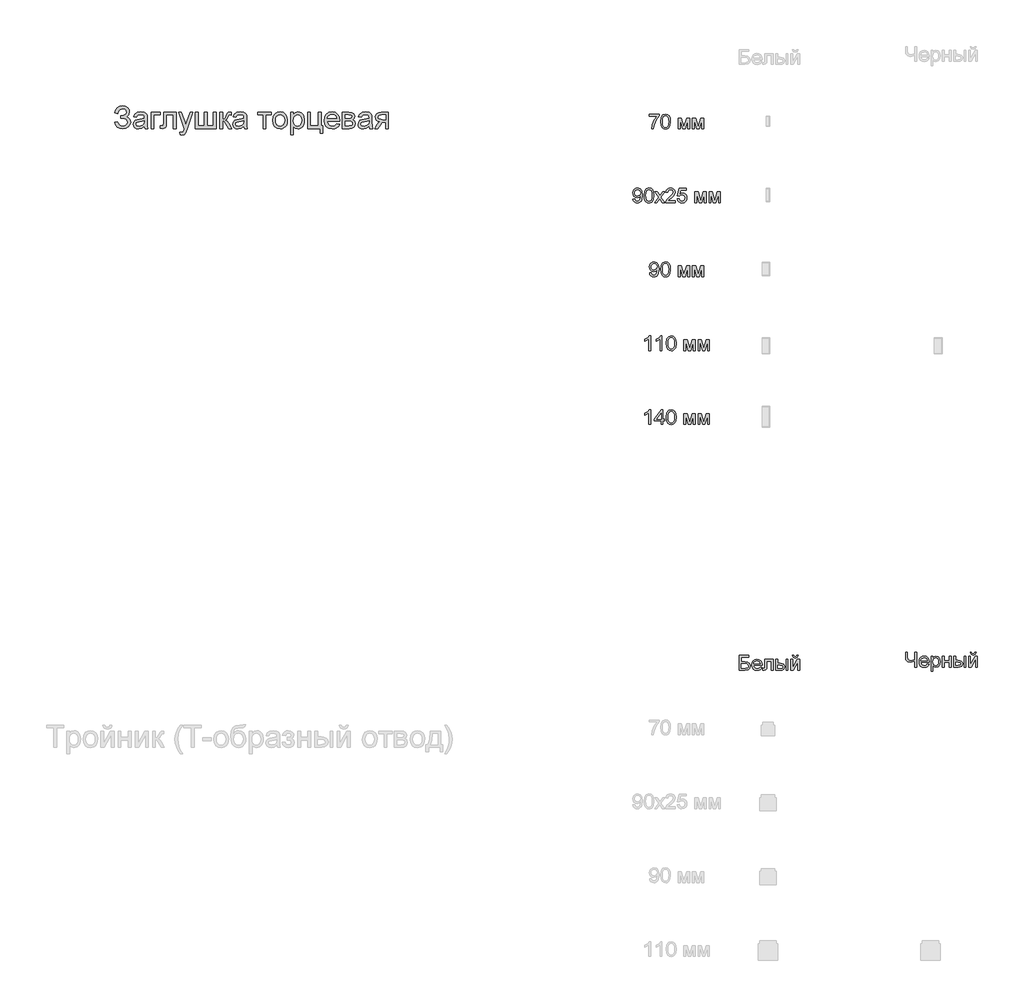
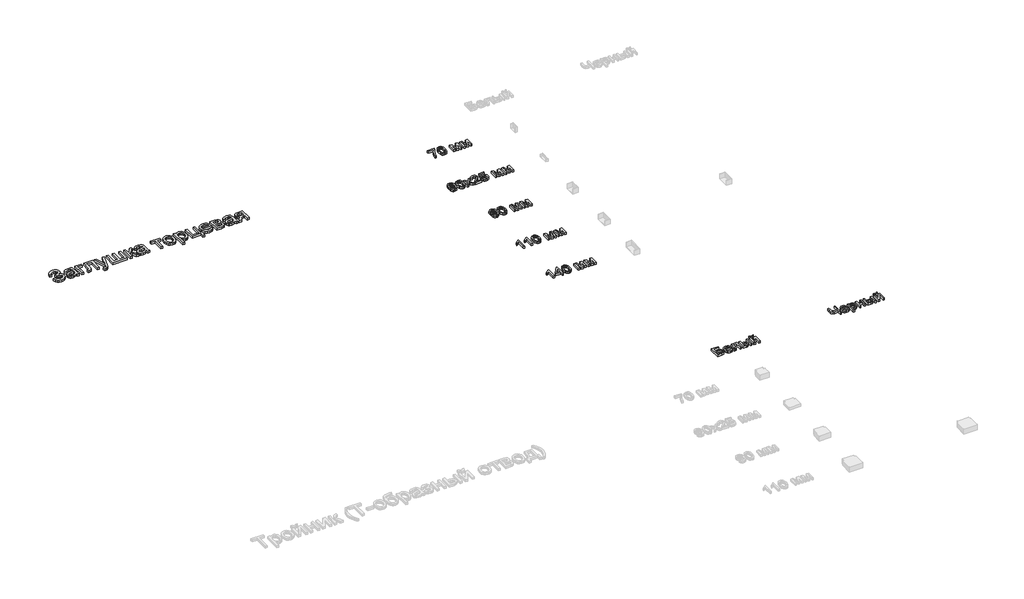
# One storey, part 9 of 48: 8 proxies.
"""IFC4 building model written with IfcOpenShell, lengths in millimetres."""

from ifc_helpers import new_model, si_unit, origin, origin_with_axes, place, context, project, spatial, polyline, outline, extrude, element, save

model = new_model("IFC4")

# Units and contexts
model_context = context("Model", 3, world=origin())
ifc_project = project(units=[si_unit("LENGTHUNIT", "METRE", prefix="MILLI")], contexts=[model_context])

# Site, building, storey
site = spatial("IfcSite", under=ifc_project)
building = spatial("IfcBuilding", under=site)
storey = spatial("IfcBuildingStorey", under=building, Name="Этаж 01", Elevation=0.0)

# Proxies
placement = place(None, origin())
element("IfcBuildingElementProxy", 1, Name="150 мм Arial", ObjectType="150 мм Arial", at=placement, inside=storey, context=model_context, shape_type="SweptSolid", body=[
    extrude(outline(polyline([(8583.0171402, -17521.7513359), (8601.8526983, -17517.0424464), (8613.4225871, -17537.441503), (8624.3532809, -17545.098047), (8638.3465923, -17547.6502284), (8652.5238446, -17545.7326435), (8663.3441738, -17539.9798888), (8670.2005745, -17531.5140043), (8672.4860414, -17521.4570303), (8669.9890424, -17510.9218097), (8662.4980452, -17502.787019), (8650.7028288, -17497.5860873), (8635.2931717, -17495.8524434), (8625.397146, -17495.8524434), (8625.397146, -17477.0168853), (8646.7159076, -17475.490175), (8659.7573244, -17467.6910767), (8665.4227071, -17453.4356494), (8663.5373119, -17444.5650948), (8657.8811262, -17436.9361419), (8649.0059731, -17431.6800279), (8637.4636755, -17429.9279899), (8618.2418412, -17435.3174611), (8607.2421696, -17449.6096766), (8604.2071431, -17462.8902167), (8585.3715849, -17458.1813271), (8591.2232079, -17437.5799354), (8601.8251072, -17422.8646556), (8617.1772827, -17414.0354877), (8637.2797345, -17411.0924317), (8656.6717141, -17414.1504508), (8671.5847305, -17423.3245081), (8681.0898816, -17436.5912525), (8684.2582653, -17451.9273332), (8679.3286465, -17470.5697533), (8664.5397903, -17484.4848898), (8675.0152301, -17489.3087424), (8683.6328659, -17497.4527301), (8689.3994161, -17508.217877), (8691.3215996, -17520.9052073), (8687.6335826, -17538.7428855), (8676.5695316, -17553.4075816), (8659.4170335, -17563.2162353), (8637.4636755, -17566.4857865), (8618.3614029, -17563.6898833), (8602.9195561, -17555.3021739), (8591.1381352, -17541.322658), (8583.0171402, -17521.7513359)])), origin_with_axes(), (0.0, 0.0, 1.0), 20.0),
    extrude(outline(polyline([(8785.4993903, -17550.0046731), (8767.2340493, -17562.7701784), (8747.0557218, -17566.4857865), (8731.314971, -17564.2509034), (8719.7036955, -17557.546254), (8712.5437922, -17547.3651198), (8710.1571577, -17534.7007821), (8713.7624013, -17519.8015613), (8723.2353626, -17508.9858307), (8736.4239322, -17502.8054131), (8752.7211046, -17499.9727218), (8785.3890257, -17493.4979987), (8785.4993903, -17489.3041439), (8784.2026063, -17480.8980403), (8780.3122542, -17475.3982045), (8771.611845, -17471.3147144), (8759.4901333, -17469.953551), (8740.4338459, -17473.5771886), (8731.3471606, -17486.4346644), (8712.5116025, -17484.0802196), (8720.6601887, -17465.6861198), (8737.0677257, -17454.9071774), (8761.9181544, -17451.1179928), (8784.7452322, -17454.465719), (8797.6394962, -17462.8718226), (8803.4152435, -17475.6557219), (8804.3349485, -17492.1368353), (8804.3349485, -17515.5709184), (8805.2914417, -17548.2940218), (8809.043838, -17564.1313417), (8790.2082799, -17564.1313417), (8785.4993903, -17550.0046731)]), holes=[polyline([(8785.4993903, -17512.3335568), (8755.1123375, -17518.1093041), (8738.9071356, -17521.1627247), (8731.5678898, -17526.1291316), (8728.9927159, -17533.3764069), (8734.6029163, -17543.5667382), (8751.0656356, -17547.6502284), (8770.1219229, -17543.1436739), (8782.4091816, -17532.2359728), (8785.3890257, -17517.6678457), (8785.4993903, -17512.3335568)])]), origin_with_axes(), (0.0, 0.0, 1.0), 20.0),
    extrude(outline(polyline([(8830.2338409, -17453.4724376), (8891.4494049, -17453.4724376), (8891.4494049, -17472.3079957), (8849.0693991, -17472.3079957), (8849.0693991, -17564.1313417), (8830.2338409, -17564.1313417), (8830.2338409, -17453.4724376)])), origin_with_axes(), (0.0, 0.0, 1.0), 20.0),
    extrude(outline(polyline([(8914.9938526, -17453.4724376), (8999.7538643, -17453.4724376), (8999.7538643, -17564.0209771), (8980.9183062, -17564.0209771), (8980.9183062, -17472.3079957), (8933.8294108, -17472.3079957), (8933.8294108, -17525.0990621), (8932.5602179, -17549.4528501), (8925.5888541, -17559.7351519), (8909.1077407, -17564.1313417), (8893.8038497, -17563.1748486), (8893.8038497, -17545.2957836), (8902.2283474, -17545.2957836), (8910.7448156, -17544.1369553), (8914.147724, -17540.4581354), (8914.9938526, -17524.0322043), (8914.9938526, -17453.4724376)])), origin_with_axes(), (0.0, 0.0, 1.0), 20.0),
    extrude(outline(polyline([(9028.0072015, -17606.5113476), (9025.6527568, -17588.3747652), (9035.2176887, -17590.0302342), (9044.1572211, -17587.9517009), (9049.6386629, -17582.1575595), (9054.7890108, -17568.2884083), (9056.2605388, -17563.7266715), (9016.2349777, -17453.4724376), (9036.1006054, -17453.4724376), (9057.3273966, -17514.9087308), (9064.7218247, -17539.4832481), (9072.1162528, -17517.7782103), (9093.9316551, -17453.4724376), (9113.65013, -17453.4724376), (9075.1328851, -17566.7800921), (9065.1264949, -17591.3546094), (9054.2003996, -17604.6351494), (9039.521908, -17608.8657924), (9028.0072015, -17606.5113476)])), origin_with_axes(), (0.0, 0.0, 1.0), 20.0),
    extrude(outline(polyline([(9129.2483266, -17453.4724376), (9148.0838848, -17453.4724376), (9148.0838848, -17545.2957836), (9190.4638906, -17545.2957836), (9190.4638906, -17453.4724376), (9209.2994488, -17453.4724376), (9209.2994488, -17545.2957836), (9251.6794546, -17545.2957836), (9251.6794546, -17453.4724376), (9270.5150128, -17453.4724376), (9270.5150128, -17564.1313417), (9129.2483266, -17564.1313417), (9129.2483266, -17453.4724376)])), origin_with_axes(), (0.0, 0.0, 1.0), 20.0),
    extrude(outline(polyline([(9296.4139052, -17453.4724376), (9315.2494634, -17453.4724376), (9315.2494634, -17500.561333), (9327.8678158, -17497.1768186), (9338.2052999, -17477.4583437), (9346.7953445, -17460.4438014), (9354.3737136, -17454.9071774), (9368.1508943, -17453.4724376), (9371.7561378, -17453.4724376), (9371.7561378, -17472.4183603), (9366.6793663, -17472.3079957), (9357.4823164, -17474.2945585), (9351.0075933, -17486.6921818), (9343.4108301, -17500.1014805), (9332.7606464, -17506.6681741), (9344.6432348, -17513.9982228), (9356.305094, -17529.4400696), (9376.4650274, -17564.1313417), (9355.0542953, -17564.1313417), (9335.2990321, -17530.1758336), (9325.3662182, -17515.8100417), (9315.2494634, -17512.3335568), (9315.2494634, -17564.1313417), (9296.4139052, -17564.1313417), (9296.4139052, -17453.4724376)])), origin_with_axes(), (0.0, 0.0, 1.0), 20.0),
    extrude(outline(polyline([(9458.8705943, -17550.0046731), (9440.6052532, -17562.7701784), (9420.4269258, -17566.4857865), (9404.6861749, -17564.2509034), (9393.0748995, -17557.546254), (9385.9149961, -17547.3651198), (9383.5283617, -17534.7007821), (9387.1336052, -17519.8015613), (9396.6065666, -17508.9858307), (9409.7951361, -17502.8054131), (9426.0923085, -17499.9727218), (9458.7602297, -17493.4979987), (9458.8705943, -17489.3041439), (9457.5738103, -17480.8980403), (9453.6834582, -17475.3982045), (9444.983049, -17471.3147144), (9432.8613372, -17469.953551), (9413.8050499, -17473.5771886), (9404.7183646, -17486.4346644), (9385.8828065, -17484.0802196), (9394.0313926, -17465.6861198), (9410.4389296, -17454.9071774), (9435.2893584, -17451.1179928), (9458.1164362, -17454.465719), (9471.0107001, -17462.8718226), (9476.7864475, -17475.6557219), (9477.7061525, -17492.1368353), (9477.7061525, -17515.5709184), (9478.6626456, -17548.2940218), (9482.415042, -17564.1313417), (9463.5794838, -17564.1313417), (9458.8705943, -17550.0046731)]), holes=[polyline([(9458.8705943, -17512.3335568), (9428.4835415, -17518.1093041), (9412.2783396, -17521.1627247), (9404.9390938, -17526.1291316), (9402.3639198, -17533.3764069), (9407.9741203, -17543.5667382), (9424.4368395, -17547.6502284), (9443.4931269, -17543.1436739), (9455.7803855, -17532.2359728), (9458.7602297, -17517.6678457), (9458.8705943, -17512.3335568)])]), origin_with_axes(), (0.0, 0.0, 1.0), 20.0),
    extrude(outline(polyline([(9553.0483851, -17453.4724376), (9642.5172863, -17453.4724376), (9642.5172863, -17472.3079957), (9607.2006148, -17472.3079957), (9607.2006148, -17564.1313417), (9588.3650566, -17564.1313417), (9588.3650566, -17472.3079957), (9553.0483851, -17472.3079957), (9553.0483851, -17453.4724376)])), origin_with_axes(), (0.0, 0.0, 1.0), 20.0),
    extrude(outline(polyline([(9654.2895101, -17508.8018897), (9658.3638032, -17482.121248), (9670.5866825, -17463.3684633), (9685.6882384, -17454.1806104), (9703.7696385, -17451.1179928), (9723.5570913, -17454.8473965), (9739.3622215, -17466.0356077), (9749.7226982, -17483.7997096), (9753.1761904, -17507.2567853), (9751.6494802, -17526.2854815), (9747.0693493, -17540.770835), (9739.5691551, -17551.6187554), (9729.2822549, -17559.7351519), (9717.0639741, -17564.7981279), (9703.7696385, -17566.4857865), (9683.7430624, -17562.7701784), (9667.9563263, -17551.6233539), (9657.7062142, -17533.4867715), (9654.2895101, -17508.8018897)]), holes=[polyline([(9673.1250683, -17508.7651015), (9675.3047691, -17525.8118334), (9681.8438716, -17537.9565378), (9691.6847149, -17545.2268057), (9703.7696385, -17547.6502284), (9715.7993797, -17545.2130101), (9725.621829, -17537.9013555), (9732.1609315, -17525.5957027), (9734.3406323, -17508.1764903), (9732.1471359, -17491.626399), (9725.5666467, -17479.6472415), (9715.7304019, -17472.3769736), (9703.7696385, -17469.953551), (9691.6847149, -17472.3677766), (9681.8438716, -17479.6104533), (9675.3047691, -17491.7275666), (9673.1250683, -17508.7651015)])]), origin_with_axes(), (0.0, 0.0, 1.0), 20.0),
    extrude(outline(polyline([(9774.3661934, -17606.5113476), (9774.3661934, -17453.4724376), (9793.2017515, -17453.4724376), (9793.2017515, -17471.9401137), (9806.2247741, -17456.3235231), (9823.8095335, -17451.1179928), (9836.5474476, -17452.9390087), (9847.685075, -17458.4020563), (9856.7533662, -17467.1760419), (9863.2832716, -17478.9298717), (9868.5439841, -17507.9557611), (9867.0586606, -17524.0643939), (9862.6026899, -17538.4715726), (9855.3186264, -17550.4461315), (9845.3490243, -17559.2569053), (9833.7377489, -17564.6785662), (9821.5286651, -17566.4857865), (9805.1395223, -17561.6481383), (9793.2017515, -17549.4160619), (9793.2017515, -17606.5113476), (9774.3661934, -17606.5113476)]), holes=[polyline([(9793.2017515, -17509.6848065), (9795.2388981, -17526.57059), (9801.3503377, -17538.3796021), (9810.3680451, -17545.3325718), (9821.1239949, -17547.6502284), (9832.0546887, -17545.2497983), (9841.3023224, -17538.0485083), (9847.6069001, -17525.8072349), (9849.708426, -17508.2868549), (9847.6574838, -17491.4930418), (9841.5046575, -17479.5184829), (9832.5007456, -17472.3447839), (9821.8965471, -17469.953551), (9811.2509619, -17472.4965353), (9801.9021607, -17480.1254881), (9795.3768538, -17492.6012863), (9793.2017515, -17509.6848065)])]), origin_with_axes(), (0.0, 0.0, 1.0), 20.0),
    extrude(outline(polyline([(9889.733987, -17453.4724376), (9908.5695452, -17453.4724376), (9908.5695452, -17545.2957836), (9962.7217749, -17545.2957836), (9962.7217749, -17453.4724376), (9981.557333, -17453.4724376), (9981.557333, -17545.2957836), (9993.3295569, -17545.2957836), (9993.3295569, -17594.7391237), (9974.4939987, -17594.7391237), (9974.4939987, -17564.1313417), (9889.733987, -17564.1313417), (9889.733987, -17453.4724376)])), origin_with_axes(), (0.0, 0.0, 1.0), 20.0),
    extrude(outline(polyline([(10087.2866185, -17531.169115), (10105.7542946, -17533.5235597), (10099.100229, -17547.4386962), (10088.4822349, -17557.8405596), (10074.1394357, -17564.3244798), (10056.3109545, -17566.4857865), (10034.2104436, -17562.7563828), (10017.2050984, -17551.5681716), (10006.3617766, -17533.6477199), (10002.747336, -17509.7215947), (10006.3985648, -17484.9907275), (10017.3522512, -17466.4954602), (10034.1276702, -17454.9623597), (10055.2440967, -17451.1179928), (10075.7029341, -17454.9531626), (10092.0506903, -17466.458672), (10102.7698519, -17484.9171511), (10106.3429058, -17509.6112301), (10106.2325412, -17514.6880016), (10021.5828941, -17514.6880016), (10024.8432483, -17528.7870791), (10032.4170189, -17539.1521543), (10043.3477127, -17545.5257098), (10056.6788365, -17547.6502284), (10075.1465126, -17543.713891), (10087.2866185, -17531.169115)]), holes=[polyline([(10021.5828941, -17495.8524434), (10087.5073477, -17495.8524434), (10084.9597648, -17485.9012355), (10079.9657668, -17478.7827189), (10068.9844892, -17472.1608429), (10055.1705203, -17469.953551), (10042.4739929, -17471.714786), (10031.9755605, -17476.9984912), (10024.6777014, -17485.2344494), (10021.5828941, -17495.8524434)])]), origin_with_axes(), (0.0, 0.0, 1.0), 20.0),
    extrude(outline(polyline([(10125.178464, -17453.4724376), (10166.675553, -17453.4724376), (10189.4290544, -17455.9924293), (10202.2313479, -17465.2262673), (10207.5840309, -17481.3211046), (10204.3466693, -17494.3993096), (10194.5977965, -17503.7251181), (10207.2529371, -17513.9338435), (10212.2929204, -17531.6841498), (10209.1015441, -17546.0407446), (10201.513978, -17556.1483024), (10189.5026308, -17562.1355819), (10173.0399115, -17564.1313417), (10125.178464, -17564.1313417), (10125.178464, -17453.4724376)]), holes=[polyline([(10144.0140221, -17495.8524434), (10162.6288511, -17495.8524434), (10177.9879244, -17494.8959502), (10185.4559289, -17491.0699775), (10188.7484727, -17484.153796), (10187.3045359, -17478.5343985), (10182.9727254, -17474.9199579), (10163.2174623, -17472.3079957), (10144.0140221, -17472.3079957), (10144.0140221, -17495.8524434)]), polyline([(10144.0140221, -17545.2957836), (10167.1170114, -17545.2957836), (10187.6080385, -17541.8928751), (10191.8478785, -17537.2529635), (10193.4573623, -17530.1390454), (10190.2383948, -17521.0707542), (10181.8506853, -17515.7916476), (10165.2776014, -17514.6880016), (10144.0140221, -17514.6880016), (10144.0140221, -17545.2957836)])]), origin_with_axes(), (0.0, 0.0, 1.0), 20.0),
    extrude(outline(polyline([(10306.4707112, -17550.0046731), (10288.2053701, -17562.7701784), (10268.0270427, -17566.4857865), (10252.2862918, -17564.2509034), (10240.6750163, -17557.546254), (10233.515113, -17547.3651198), (10231.1284786, -17534.7007821), (10234.7337221, -17519.8015613), (10244.2066835, -17508.9858307), (10257.395253, -17502.8054131), (10273.6924254, -17499.9727218), (10306.3603466, -17493.4979987), (10306.4707112, -17489.3041439), (10305.1739272, -17480.8980403), (10301.2835751, -17475.3982045), (10292.5831659, -17471.3147144), (10280.4614541, -17469.953551), (10261.4051668, -17473.5771886), (10252.3184815, -17486.4346644), (10233.4829233, -17484.0802196), (10241.6315095, -17465.6861198), (10258.0390465, -17454.9071774), (10282.8894753, -17451.1179928), (10305.7165531, -17454.465719), (10318.610817, -17462.8718226), (10324.3865643, -17475.6557219), (10325.3062693, -17492.1368353), (10325.3062693, -17515.5709184), (10326.2627625, -17548.2940218), (10330.0151589, -17564.1313417), (10311.1796007, -17564.1313417), (10306.4707112, -17550.0046731)]), holes=[polyline([(10306.4707112, -17512.3335568), (10276.0836584, -17518.1093041), (10259.8784565, -17521.1627247), (10252.5392107, -17526.1291316), (10249.9640367, -17533.3764069), (10255.5742372, -17543.5667382), (10272.0369564, -17547.6502284), (10291.0932438, -17543.1436739), (10303.3805024, -17532.2359728), (10306.3603466, -17517.6678457), (10306.4707112, -17512.3335568)])]), origin_with_axes(), (0.0, 0.0, 1.0), 20.0),
    extrude(outline(polyline([(10435.9651735, -17453.4724376), (10435.9651735, -17564.1313417), (10417.1296153, -17564.1313417), (10417.1296153, -17521.7513359), (10406.8657077, -17521.7513359), (10392.8861919, -17524.1425689), (10379.7528046, -17540.2190121), (10364.7432192, -17564.1313417), (10342.9646051, -17564.1313417), (10361.8737397, -17533.8914417), (10370.2246609, -17523.0389229), (10377.9133946, -17518.2196687), (10365.0375248, -17514.2741343), (10355.9876277, -17506.7785387), (10350.6349447, -17496.8089366), (10348.850717, -17485.441383), (10351.2879352, -17472.547119), (10358.5995899, -17462.3383937), (10370.5281636, -17455.6889266), (10386.8161389, -17453.4724376), (10435.9651735, -17453.4724376)]), holes=[polyline([(10417.1296153, -17472.3079957), (10392.2975807, -17472.3079957), (10379.4722946, -17473.3978462), (10372.1928296, -17476.6673974), (10367.6862752, -17486.8761228), (10369.3463427, -17494.0544202), (10374.3265452, -17499.0346227), (10397.8525988, -17502.9157777), (10417.1296153, -17502.9157777), (10417.1296153, -17472.3079957)])]), origin_with_axes(), (0.0, 0.0, 1.0), 20.0),
])
element("IfcBuildingElementProxy", 2, Name="100 мм Arial", ObjectType="100 мм Arial", at=placement, inside=storey, context=model_context, shape_type="SweptSolid", body=[
    extrude(outline(polyline([(12202.0597089, -17480.1192443), (12202.0597089, -17467.5622055), (12267.9841625, -17467.5622055), (12267.9841625, -17477.7157486), (12249.2834944, -17504.7305498), (12234.9728848, -17539.1520418), (12230.3130462, -17566.4488858), (12217.7560074, -17566.4488858), (12222.7469398, -17538.1219722), (12236.4444127, -17506.1039759), (12255.4271237, -17480.1192443), (12202.0597089, -17480.1192443)])), origin_with_axes(), (0.0, 0.0, 1.0), 20.0),
    extrude(outline(polyline([(12278.9715714, -17517.0300711), (12282.6626541, -17488.126809), (12293.6255375, -17471.4617547), (12311.9337982, -17465.9925757), (12326.600027, -17469.2299372), (12336.7290446, -17478.5618772), (12342.6151566, -17493.4243098), (12344.8960249, -17517.0300711), (12341.2417304, -17545.8107059), (12330.3156352, -17562.5125485), (12322.0842755, -17566.6420239), (12311.9337982, -17568.0185157), (12298.8862501, -17565.6272827), (12288.9779617, -17558.4535838), (12281.473169, -17541.463567), (12278.9715714, -17517.0300711)]), holes=[polyline([(12291.5286102, -17517.0055457), (12293.0001381, -17536.7577431), (12297.4147221, -17548.1896761), (12303.9875471, -17553.6435267), (12311.9337982, -17555.4614769), (12319.8800493, -17553.6373953), (12326.4528742, -17548.1651507), (12330.8674582, -17536.7270863), (12332.3389862, -17517.0055457), (12330.9165091, -17497.6978723), (12326.649078, -17486.1770345), (12320.0885157, -17480.4564694), (12311.7866454, -17478.5496144), (12303.9262334, -17480.2296089), (12297.6109258, -17485.2695922), (12293.0491891, -17497.5077999), (12291.5286102, -17517.0055457)])]), origin_with_axes(), (0.0, 0.0, 1.0), 20.0),
    extrude(outline(polyline([(12398.2634397, -17492.6762831), (12419.8703755, -17492.6762831), (12436.5231672, -17551.733606), (12454.4758086, -17492.6762831), (12475.1753022, -17492.6762831), (12475.1753022, -17566.4488858), (12462.6182634, -17566.4488858), (12462.6182634, -17507.0482063), (12444.5675202, -17566.4488858), (12428.0864068, -17566.4488858), (12410.8204785, -17504.2032522), (12410.8204785, -17566.4488858), (12398.2634397, -17566.4488858), (12398.2634397, -17492.6762831)])), origin_with_axes(), (0.0, 0.0, 1.0), 20.0),
    extrude(outline(polyline([(12494.0108603, -17492.6762831), (12515.6177962, -17492.6762831), (12532.2705878, -17551.733606), (12550.2232292, -17492.6762831), (12570.9227228, -17492.6762831), (12570.9227228, -17566.4488858), (12558.365684, -17566.4488858), (12558.365684, -17507.0482063), (12540.3149408, -17566.4488858), (12523.8338274, -17566.4488858), (12506.5678991, -17504.2032522), (12506.5678991, -17566.4488858), (12494.0108603, -17566.4488858), (12494.0108603, -17492.6762831)])), origin_with_axes(), (0.0, 0.0, 1.0), 20.0),
])
element("IfcBuildingElementProxy", 3, Name="100 мм Arial", ObjectType="100 мм Arial", at=placement, inside=storey, context=model_context, shape_type="SweptSolid", body=[
    extrude(outline(polyline([(12091.4008048, -18041.3348083), (12103.9578436, -18039.7651784), (12109.5987008, -18051.7458687), (12120.2918041, -18055.4614769), (12130.4576099, -18053.0702439), (12137.349266, -18046.6813599), (12141.4572816, -18035.7675274), (12143.2721661, -18021.1994004), (12143.1985897, -18018.7468538), (12133.1554112, -18028.2627347), (12119.3843619, -18031.9170292), (12107.9340348, -18029.6852118), (12098.4028254, -18022.9897595), (12091.9740876, -18012.646144), (12089.8311749, -17999.4698372), (12092.0783208, -17985.8582034), (12098.8197584, -17975.1896256), (12108.9457103, -17968.2918381), (12121.3463992, -17965.9925757), (12139.2377269, -17971.2410255), (12151.549511, -17986.2015599), (12155.7556285, -18014.3077444), (12151.5617737, -18044.8051618), (12146.3470464, -18054.7962236), (12139.0905741, -18062.0833528), (12130.1050564, -18066.534725), (12119.7031929, -18068.0185157), (12108.9671701, -18066.2680105), (12100.4016509, -18061.016495), (12094.4113058, -18052.595063), (12091.4008048, -18041.3348083)]), holes=[polyline([(12143.1985897, -17999.1755316), (12141.8435577, -17990.6651948), (12137.7784616, -17984.1168953), (12131.4692854, -17979.9414347), (12123.3820129, -17978.5496144), (12114.9943034, -17980.0487336), (12108.2743256, -17984.546091), (12103.8597417, -17991.42855), (12102.3882137, -18000.0829739), (12103.7800339, -18007.8422183), (12107.9554946, -18014.001176), (12114.5099254, -18018.0202868), (12123.0386564, -18019.3599904), (12137.5209442, -18014.001176), (12141.7791783, -18007.6153577), (12143.1985897, -17999.1755316)])]), origin_with_axes(), (0.0, 0.0, 1.0), 20.0),
    extrude(outline(polyline([(12166.7430374, -18017.0300711), (12170.4341201, -17988.126809), (12181.3970035, -17971.4617547), (12199.7052642, -17965.9925757), (12214.371493, -17969.2299372), (12224.5005106, -17978.5618772), (12230.3866226, -17993.4243098), (12232.6674909, -18017.0300711), (12229.0131964, -18045.8107059), (12218.0871012, -18062.5125485), (12209.8557415, -18066.6420239), (12199.7052642, -18068.0185157), (12186.6577161, -18065.6272827), (12176.7494277, -18058.4535838), (12169.244635, -18041.463567), (12166.7430374, -18017.0300711)]), holes=[polyline([(12179.3000762, -18017.0055457), (12180.7716041, -18036.7577431), (12185.1861881, -18048.1896761), (12191.7590131, -18053.6435267), (12199.7052642, -18055.4614769), (12207.6515153, -18053.6373953), (12214.2243402, -18048.1651507), (12218.6389242, -18036.7270863), (12220.1104522, -18017.0055457), (12218.6879751, -17997.6978723), (12214.420544, -17986.1770345), (12207.8599817, -17980.4564694), (12199.5581114, -17978.5496144), (12191.6976994, -17980.2296089), (12185.3823918, -17985.2695922), (12180.8206551, -17997.5077999), (12179.3000762, -18017.0055457)])]), origin_with_axes(), (0.0, 0.0, 1.0), 20.0),
    extrude(outline(polyline([(12238.9460103, -18066.4488858), (12265.7768705, -18029.3663807), (12240.5156402, -17992.6762831), (12255.6233274, -17992.6762831), (12267.8124842, -18010.3346188), (12273.5023924, -18018.6732774), (12278.4320111, -18011.8551977), (12292.3134251, -17992.6762831), (12307.4211124, -17992.6762831), (12280.8845578, -18029.3663807), (12306.4400937, -18066.4488858), (12291.3324064, -18066.4488858), (12275.954939, -18044.1552369), (12273.1345104, -18040.0840095), (12254.0536976, -18066.4488858), (12238.9460103, -18066.4488858)])), origin_with_axes(), (0.0, 0.0, 1.0), 20.0),
    extrude(outline(polyline([(12378.6430666, -18053.8918471), (12378.6430666, -18066.4488858), (12312.7186131, -18066.4488858), (12314.0675137, -18057.7913962), (12321.6949338, -18044.4618052), (12337.4157577, -18029.905941), (12359.0962699, -18008.9857182), (12364.516398, -17994.7609477), (12359.4028383, -17983.2462412), (12346.0487218, -17978.5496144), (12332.1305197, -17983.1358766), (12326.8452817, -17995.8155427), (12314.2882429, -17994.2459129), (12317.3324664, -17982.0996757), (12323.9144885, -17973.2275882), (12333.6909525, -17967.8013288), (12346.318502, -17965.9925757), (12359.038022, -17968.0036639), (12368.7960919, -17974.0369286), (12375.0041005, -17983.0500375), (12377.0734368, -17994.0006582), (12374.8416193, -18005.9077721), (12367.4226658, -18018.2195563), (12349.4332362, -18035.4241709), (12334.9877365, -18047.5029631), (12329.3223538, -18053.8918471), (12378.6430666, -18053.8918471)])), origin_with_axes(), (0.0, 0.0, 1.0), 20.0),
    extrude(outline(polyline([(12391.2001054, -18039.7651784), (12403.7571442, -18038.1955486), (12410.0847145, -18051.1327321), (12423.205839, -18055.4614769), (12432.2066851, -18053.9562264), (12438.9511884, -18049.4404749), (12443.1634372, -18042.4353886), (12444.5675202, -18033.4621336), (12439.3068076, -18018.55065), (12432.7002601, -18014.4487658), (12423.4020427, -18013.0814711), (12412.3778456, -18015.2642376), (12405.326774, -18020.9296203), (12392.7697352, -18019.3599904), (12403.7571442, -17967.5622055), (12452.4156694, -17967.5622055), (12452.4156694, -17980.1192443), (12413.9106872, -17980.1192443), (12408.5396101, -18007.7839703), (12417.5097994, -18002.3393168), (12426.9091844, -18000.5244323), (12438.6415543, -18002.7746438), (12448.3812302, -18009.5252784), (12454.9387267, -18019.8137116), (12457.1245589, -18032.6773187), (12455.1563902, -18045.2343574), (12449.2518842, -18055.9765117), (12437.9456442, -18065.0080147), (12423.156788, -18068.0185157), (12410.8235441, -18066.0840695), (12400.9980292, -18060.280731), (12394.262723, -18051.2829506), (12391.2001054, -18039.7651784)])), origin_with_axes(), (0.0, 0.0, 1.0), 20.0),
    extrude(outline(polyline([(12510.4919737, -17992.6762831), (12532.0989095, -17992.6762831), (12548.7517012, -18051.733606), (12566.7043426, -17992.6762831), (12587.4038361, -17992.6762831), (12587.4038361, -18066.4488858), (12574.8467974, -18066.4488858), (12574.8467974, -18007.0482063), (12556.7960541, -18066.4488858), (12540.3149408, -18066.4488858), (12523.0490125, -18004.2032522), (12523.0490125, -18066.4488858), (12510.4919737, -18066.4488858), (12510.4919737, -17992.6762831)])), origin_with_axes(), (0.0, 0.0, 1.0), 20.0),
    extrude(outline(polyline([(12606.2393943, -17992.6762831), (12627.8463301, -17992.6762831), (12644.4991218, -18051.733606), (12662.4517632, -17992.6762831), (12683.1512568, -17992.6762831), (12683.1512568, -18066.4488858), (12670.594218, -18066.4488858), (12670.594218, -18007.0482063), (12652.5434748, -18066.4488858), (12636.0623614, -18066.4488858), (12618.7964331, -18004.2032522), (12618.7964331, -18066.4488858), (12606.2393943, -18066.4488858), (12606.2393943, -17992.6762831)])), origin_with_axes(), (0.0, 0.0, 1.0), 20.0),
])
element("IfcBuildingElementProxy", 4, Name="100 мм Arial", ObjectType="100 мм Arial", at=placement, inside=storey, context=model_context, shape_type="SweptSolid", body=[
    extrude(outline(polyline([(12203.6293388, -18541.3348083), (12216.1863775, -18539.7651784), (12221.8272348, -18551.7458687), (12232.5203381, -18555.4614769), (12242.6861439, -18553.0702439), (12249.5778, -18546.6813599), (12253.6858156, -18535.7675274), (12255.5007001, -18521.1994004), (12255.4271237, -18518.7468538), (12245.3839452, -18528.2627347), (12231.6128959, -18531.9170292), (12220.1625688, -18529.6852118), (12210.6313594, -18522.9897595), (12204.2026216, -18512.646144), (12202.0597089, -18499.4698372), (12204.3068548, -18485.8582034), (12211.0482923, -18475.1896256), (12221.1742443, -18468.2918381), (12233.5749332, -18465.9925757), (12251.4662609, -18471.2410255), (12263.778045, -18486.2015599), (12267.9841625, -18514.3077444), (12263.7903077, -18544.8051618), (12258.5755804, -18554.7962236), (12251.3191081, -18562.0833528), (12242.3335904, -18566.534725), (12231.9317269, -18568.0185157), (12221.195704, -18566.2680105), (12212.6301849, -18561.016495), (12206.6398398, -18552.595063), (12203.6293388, -18541.3348083)]), holes=[polyline([(12255.4271237, -18499.1755316), (12254.0720917, -18490.6651948), (12250.0069956, -18484.1168953), (12243.6978194, -18479.9414347), (12235.6105469, -18478.5496144), (12227.2228374, -18480.0487336), (12220.5028596, -18484.546091), (12216.0882757, -18491.42855), (12214.6167477, -18500.0829739), (12216.0085679, -18507.8422183), (12220.1840286, -18514.001176), (12226.7384594, -18518.0202868), (12235.2671904, -18519.3599904), (12249.7494782, -18514.001176), (12254.0077123, -18507.6153577), (12255.4271237, -18499.1755316)])]), origin_with_axes(), (0.0, 0.0, 1.0), 20.0),
    extrude(outline(polyline([(12278.9715714, -18517.0300711), (12282.6626541, -18488.126809), (12293.6255375, -18471.4617547), (12311.9337982, -18465.9925757), (12326.600027, -18469.2299372), (12336.7290446, -18478.5618772), (12342.6151566, -18493.4243098), (12344.8960249, -18517.0300711), (12341.2417304, -18545.8107059), (12330.3156352, -18562.5125485), (12322.0842755, -18566.6420239), (12311.9337982, -18568.0185157), (12298.8862501, -18565.6272827), (12288.9779617, -18558.4535838), (12281.473169, -18541.463567), (12278.9715714, -18517.0300711)]), holes=[polyline([(12291.5286102, -18517.0055457), (12293.0001381, -18536.7577431), (12297.4147221, -18548.1896761), (12303.9875471, -18553.6435267), (12311.9337982, -18555.4614769), (12319.8800493, -18553.6373953), (12326.4528742, -18548.1651507), (12330.8674582, -18536.7270863), (12332.3389862, -18517.0055457), (12330.9165091, -18497.6978723), (12326.649078, -18486.1770345), (12320.0885157, -18480.4564694), (12311.7866454, -18478.5496144), (12303.9262334, -18480.2296089), (12297.6109258, -18485.2695922), (12293.0491891, -18497.5077999), (12291.5286102, -18517.0055457)])]), origin_with_axes(), (0.0, 0.0, 1.0), 20.0),
    extrude(outline(polyline([(12398.2634397, -18492.6762831), (12419.8703755, -18492.6762831), (12436.5231672, -18551.733606), (12454.4758086, -18492.6762831), (12475.1753022, -18492.6762831), (12475.1753022, -18566.4488858), (12462.6182634, -18566.4488858), (12462.6182634, -18507.0482063), (12444.5675202, -18566.4488858), (12428.0864068, -18566.4488858), (12410.8204785, -18504.2032522), (12410.8204785, -18566.4488858), (12398.2634397, -18566.4488858), (12398.2634397, -18492.6762831)])), origin_with_axes(), (0.0, 0.0, 1.0), 20.0),
    extrude(outline(polyline([(12494.0108603, -18492.6762831), (12515.6177962, -18492.6762831), (12532.2705878, -18551.733606), (12550.2232292, -18492.6762831), (12570.9227228, -18492.6762831), (12570.9227228, -18566.4488858), (12558.365684, -18566.4488858), (12558.365684, -18507.0482063), (12540.3149408, -18566.4488858), (12523.8338274, -18566.4488858), (12506.5678991, -18504.2032522), (12506.5678991, -18566.4488858), (12494.0108603, -18566.4488858), (12494.0108603, -18492.6762831)])), origin_with_axes(), (0.0, 0.0, 1.0), 20.0),
])
element("IfcBuildingElementProxy", 5, Name="100 мм Arial", ObjectType="100 мм Arial", at=placement, inside=storey, context=model_context, shape_type="SweptSolid", body=[
    extrude(outline(polyline([(12210.6926731, -19066.4488858), (12198.1356343, -19066.4488858), (12198.1356343, -18988.1635972), (12186.2407831, -18996.6371459), (12173.0215568, -19002.9769789), (12173.0215568, -18991.1066532), (12191.4279193, -18979.3589548), (12202.5992692, -18965.9925757), (12210.6926731, -18965.9925757), (12210.6926731, -19066.4488858)])), origin_with_axes(), (0.0, 0.0, 1.0), 20.0),
    extrude(outline(polyline([(12287.6045355, -19066.4488858), (12275.0474968, -19066.4488858), (12275.0474968, -18988.1635972), (12263.1526456, -18996.6371459), (12249.9334192, -19002.9769789), (12249.9334192, -18991.1066532), (12268.3397817, -18979.3589548), (12279.5111316, -18965.9925757), (12287.6045355, -18965.9925757), (12287.6045355, -19066.4488858)])), origin_with_axes(), (0.0, 0.0, 1.0), 20.0),
    extrude(outline(polyline([(12317.4275026, -19017.0300711), (12321.1185853, -18988.126809), (12332.0814688, -18971.4617547), (12350.3897294, -18965.9925757), (12365.0559583, -18969.2299372), (12375.1849759, -18978.5618772), (12381.0710878, -18993.4243098), (12383.3519562, -19017.0300711), (12379.6976617, -19045.8107059), (12368.7715664, -19062.5125485), (12360.5402068, -19066.6420239), (12350.3897294, -19068.0185157), (12337.3421813, -19065.6272827), (12327.4338929, -19058.4535838), (12319.9291002, -19041.463567), (12317.4275026, -19017.0300711)]), holes=[polyline([(12329.9845414, -19017.0055457), (12331.4560694, -19036.7577431), (12335.8706533, -19048.1896761), (12342.4434783, -19053.6435267), (12350.3897294, -19055.4614769), (12358.3359805, -19053.6373953), (12364.9088055, -19048.1651507), (12369.3233894, -19036.7270863), (12370.7949174, -19017.0055457), (12369.3724403, -18997.6978723), (12365.1050092, -18986.1770345), (12358.5444469, -18980.4564694), (12350.2425766, -18978.5496144), (12342.3821646, -18980.2296089), (12336.066857, -18985.2695922), (12331.5051203, -18997.5077999), (12329.9845414, -19017.0055457)])]), origin_with_axes(), (0.0, 0.0, 1.0), 20.0),
    extrude(outline(polyline([(12436.7193709, -18992.6762831), (12458.3263068, -18992.6762831), (12474.9790984, -19051.733606), (12492.9317398, -18992.6762831), (12513.6312334, -18992.6762831), (12513.6312334, -19066.4488858), (12501.0741946, -19066.4488858), (12501.0741946, -19007.0482063), (12483.0234514, -19066.4488858), (12466.542338, -19066.4488858), (12449.2764097, -19004.2032522), (12449.2764097, -19066.4488858), (12436.7193709, -19066.4488858), (12436.7193709, -18992.6762831)])), origin_with_axes(), (0.0, 0.0, 1.0), 20.0),
    extrude(outline(polyline([(12532.4667915, -18992.6762831), (12554.0737274, -18992.6762831), (12570.726519, -19051.733606), (12588.6791604, -18992.6762831), (12609.378654, -18992.6762831), (12609.378654, -19066.4488858), (12596.8216152, -19066.4488858), (12596.8216152, -19007.0482063), (12578.770872, -19066.4488858), (12562.2897586, -19066.4488858), (12545.0238303, -19004.2032522), (12545.0238303, -19066.4488858), (12532.4667915, -19066.4488858), (12532.4667915, -18992.6762831)])), origin_with_axes(), (0.0, 0.0, 1.0), 20.0),
])
element("IfcBuildingElementProxy", 6, Name="100 мм Arial", ObjectType="100 мм Arial", at=placement, inside=storey, context=model_context, shape_type="SweptSolid", body=[
    extrude(outline(polyline([(12210.6926731, -19566.4488858), (12198.1356343, -19566.4488858), (12198.1356343, -19488.1635972), (12186.2407831, -19496.6371459), (12173.0215568, -19502.9769789), (12173.0215568, -19491.1066532), (12191.4279193, -19479.3589548), (12202.5992692, -19465.9925757), (12210.6926731, -19465.9925757), (12210.6926731, -19566.4488858)])), origin_with_axes(), (0.0, 0.0, 1.0), 20.0),
    extrude(outline(polyline([(12281.3260162, -19566.4488858), (12281.3260162, -19542.9044381), (12235.8067506, -19542.9044381), (12235.8067506, -19530.3473994), (12284.4652759, -19467.5622055), (12293.8830549, -19467.5622055), (12293.8830549, -19530.3473994), (12306.4400937, -19530.3473994), (12306.4400937, -19542.9044381), (12293.8830549, -19542.9044381), (12293.8830549, -19566.4488858), (12281.3260162, -19566.4488858)]), holes=[polyline([(12281.3260162, -19530.3473994), (12281.3260162, -19491.5481116), (12251.2577944, -19530.3473994), (12281.3260162, -19530.3473994)])]), origin_with_axes(), (0.0, 0.0, 1.0), 20.0),
    extrude(outline(polyline([(12317.4275026, -19517.0300711), (12321.1185853, -19488.126809), (12332.0814688, -19471.4617547), (12350.3897294, -19465.9925757), (12365.0559583, -19469.2299372), (12375.1849759, -19478.5618772), (12381.0710878, -19493.4243098), (12383.3519562, -19517.0300711), (12379.6976617, -19545.8107059), (12368.7715664, -19562.5125485), (12360.5402068, -19566.6420239), (12350.3897294, -19568.0185157), (12337.3421813, -19565.6272827), (12327.4338929, -19558.4535838), (12319.9291002, -19541.463567), (12317.4275026, -19517.0300711)]), holes=[polyline([(12329.9845414, -19517.0055457), (12331.4560694, -19536.7577431), (12335.8706533, -19548.1896761), (12342.4434783, -19553.6435267), (12350.3897294, -19555.4614769), (12358.3359805, -19553.6373953), (12364.9088055, -19548.1651507), (12369.3233894, -19536.7270863), (12370.7949174, -19517.0055457), (12369.3724403, -19497.6978723), (12365.1050092, -19486.1770345), (12358.5444469, -19480.4564694), (12350.2425766, -19478.5496144), (12342.3821646, -19480.2296089), (12336.066857, -19485.2695922), (12331.5051203, -19497.5077999), (12329.9845414, -19517.0055457)])]), origin_with_axes(), (0.0, 0.0, 1.0), 20.0),
    extrude(outline(polyline([(12436.7193709, -19492.6762831), (12458.3263068, -19492.6762831), (12474.9790984, -19551.733606), (12492.9317398, -19492.6762831), (12513.6312334, -19492.6762831), (12513.6312334, -19566.4488858), (12501.0741946, -19566.4488858), (12501.0741946, -19507.0482063), (12483.0234514, -19566.4488858), (12466.542338, -19566.4488858), (12449.2764097, -19504.2032522), (12449.2764097, -19566.4488858), (12436.7193709, -19566.4488858), (12436.7193709, -19492.6762831)])), origin_with_axes(), (0.0, 0.0, 1.0), 20.0),
    extrude(outline(polyline([(12532.4667915, -19492.6762831), (12554.0737274, -19492.6762831), (12570.726519, -19551.733606), (12588.6791604, -19492.6762831), (12609.378654, -19492.6762831), (12609.378654, -19566.4488858), (12596.8216152, -19566.4488858), (12596.8216152, -19507.0482063), (12578.770872, -19566.4488858), (12562.2897586, -19566.4488858), (12545.0238303, -19504.2032522), (12545.0238303, -19566.4488858), (12532.4667915, -19566.4488858), (12532.4667915, -19492.6762831)])), origin_with_axes(), (0.0, 0.0, 1.0), 20.0),
])
element("IfcBuildingElementProxy", 7, Name="100 мм Arial", ObjectType="100 мм Arial", at=placement, inside=storey, context=model_context, shape_type="SweptSolid", body=[
    extrude(outline(polyline([(12811.066508, -21129.5825796), (12873.8517019, -21129.5825796), (12873.8517019, -21142.1396184), (12823.6235468, -21142.1396184), (12823.6235468, -21171.9625854), (12847.143469, -21171.9625854), (12867.8674881, -21174.5132339), (12880.2037976, -21184.1517422), (12884.8391108, -21200.6328556), (12881.5404356, -21214.9434652), (12871.6934608, -21225.8205095), (12849.3998119, -21230.0388898), (12811.066508, -21230.0388898), (12811.066508, -21129.5825796)]), holes=[polyline([(12823.6235468, -21217.481851), (12850.5279834, -21217.481851), (12866.8374185, -21213.3370472), (12870.9209086, -21208.1560424), (12872.282072, -21200.9026357), (12869.1673378, -21191.0679237), (12860.4975854, -21185.8194739), (12841.5761881, -21184.5196242), (12823.6235468, -21184.5196242), (12823.6235468, -21217.481851)])]), origin_with_axes(), (0.0, 0.0, 1.0), 20.0),
    extrude(outline(polyline([(12952.1860414, -21208.0640719), (12964.4978255, -21209.6337018), (12960.0617817, -21218.9104594), (12952.983119, -21225.845035), (12943.4212528, -21230.1676484), (12931.5355987, -21231.6085196), (12916.8019248, -21229.1222504), (12905.465028, -21221.663443), (12898.2361468, -21209.7164752), (12895.8265197, -21193.765725), (12898.2606722, -21177.2784803), (12905.5631298, -21164.9483021), (12916.7467425, -21157.2595684), (12930.8243602, -21154.6966571), (12944.4635851, -21157.253437), (12955.3620893, -21164.9237766), (12962.508197, -21177.2294293), (12964.8902329, -21193.6921486), (12964.8166565, -21197.076663), (12908.3835585, -21197.076663), (12910.5571279, -21206.476048), (12915.6063083, -21213.3860981), (12922.8934375, -21217.6351351), (12931.7808534, -21219.0514808), (12944.0926375, -21216.4272559), (12952.1860414, -21208.0640719)]), holes=[polyline([(12908.3835585, -21184.5196242), (12952.3331942, -21184.5196242), (12947.3054736, -21173.1398078), (12939.9846219, -21168.7252239), (12930.7753092, -21167.2536959), (12915.3120027, -21171.9503227), (12910.4467633, -21177.4409615), (12908.3835585, -21184.5196242)])]), origin_with_axes(), (0.0, 0.0, 1.0), 20.0),
    extrude(outline(polyline([(12983.7257911, -21156.266287), (13040.2324655, -21156.266287), (13040.2324655, -21229.9653134), (13027.6754268, -21229.9653134), (13027.6754268, -21168.8233258), (12996.2828298, -21168.8233258), (12996.2828298, -21204.01737), (12995.4367013, -21220.2532287), (12990.7891254, -21227.1080965), (12979.8017165, -21230.0388898), (12969.5991225, -21229.4012276), (12969.5991225, -21217.481851), (12975.2154543, -21217.481851), (12980.8930997, -21216.7092988), (12983.1617054, -21214.2567522), (12983.7257911, -21203.3061314), (12983.7257911, -21156.266287)])), origin_with_axes(), (0.0, 0.0, 1.0), 20.0),
    extrude(outline(polyline([(13128.1317369, -21156.266287), (13140.6887757, -21156.266287), (13140.6887757, -21230.0388898), (13128.1317369, -21230.0388898), (13128.1317369, -21156.266287)])), origin_with_axes(), (0.0, 0.0, 1.0), 20.0),
    extrude(outline(polyline([(13059.0680237, -21156.266287), (13071.6250625, -21156.266287), (13071.6250625, -21182.9499944), (13087.1496827, -21182.9499944), (13100.5681784, -21184.5226899), (13110.5101894, -21189.2407765), (13116.6630157, -21196.7241094), (13118.7139578, -21206.5925439), (13116.9941095, -21215.5780617), (13111.8345645, -21223.1594964), (13102.8980977, -21228.3190414), (13089.847484, -21230.0388898), (13059.0680237, -21230.0388898), (13059.0680237, -21156.266287)]), holes=[polyline([(13071.6250625, -21217.481851), (13084.5254578, -21217.481851), (13101.1782494, -21214.8453634), (13106.1569191, -21206.6170694), (13102.4658364, -21198.8915475), (13086.168664, -21195.5070331), (13071.6250625, -21195.5070331), (13071.6250625, -21217.481851)])]), origin_with_axes(), (0.0, 0.0, 1.0), 20.0),
    extrude(outline(polyline([(13159.5243338, -21156.266287), (13172.0813726, -21156.266287), (13172.0813726, -21212.5277068), (13202.9344093, -21156.266287), (13219.170268, -21156.266287), (13219.170268, -21230.0388898), (13206.6132292, -21230.0388898), (13206.6132292, -21174.1208265), (13175.9563963, -21230.0388898), (13159.5243338, -21230.0388898), (13159.5243338, -21156.266287)])), origin_with_axes(), (0.0, 0.0, 1.0), 20.0),
    extrude(outline(polyline([(13200.3347098, -21129.5825796), (13209.7524889, -21129.5825796), (13203.6579105, -21143.5498327), (13190.1321158, -21148.4181378), (13175.4904124, -21143.5866209), (13168.9421129, -21129.5825796), (13178.359892, -21129.5825796), (13181.8915591, -21136.6581766), (13189.0039444, -21139.0003587), (13196.8030427, -21136.731753), (13200.3347098, -21129.5825796)])), origin_with_axes(), (0.0, 0.0, 1.0), 20.0),
])
element("IfcBuildingElementProxy", 8, Name="100 мм Arial", ObjectType="100 мм Arial", at=placement, inside=storey, context=model_context, shape_type="SweptSolid", body=[
    extrude(outline(polyline([(14011.6331218, -21209.5408408), (13999.076083, -21209.5408408), (13999.076083, -21169.319076), (13967.9777917, -21176.5786141), (13949.6204802, -21171.6122071), (13938.9764278, -21159.0061174), (13936.2908892, -21139.0055996), (13936.2908892, -21109.0845307), (13948.847928, -21109.0845307), (13948.847928, -21137.3133425), (13950.3562442, -21150.8912538), (13954.8811927, -21158.8589646), (13969.3757433, -21164.0215753), (13999.076083, -21157.7921069), (13999.076083, -21109.0845307), (14011.6331218, -21109.0845307), (14011.6331218, -21209.5408408)])), origin_with_axes(), (0.0, 0.0, 1.0), 20.0),
    extrude(outline(polyline([(14083.6889419, -21187.566023), (14096.000726, -21189.1356528), (14091.5646823, -21198.4124105), (14084.4860196, -21205.3469861), (14074.9241534, -21209.6695995), (14063.0384993, -21211.1104707), (14048.3048254, -21208.6242015), (14036.9679286, -21201.1653941), (14029.7390473, -21189.2184263), (14027.3294203, -21173.2676761), (14029.7635728, -21156.7804314), (14037.0660304, -21144.4502532), (14048.2496431, -21136.7615195), (14062.3272608, -21134.1986082), (14075.9664857, -21136.7553881), (14086.8649898, -21144.4257277), (14094.0110976, -21156.7313804), (14096.3931335, -21173.1940997), (14096.3195571, -21176.5786141), (14039.886459, -21176.5786141), (14042.0600285, -21185.9779991), (14047.1092089, -21192.8880492), (14054.3963381, -21197.1370862), (14063.2837539, -21198.5534319), (14075.595538, -21195.929207), (14083.6889419, -21187.566023)]), holes=[polyline([(14039.886459, -21164.0215753), (14083.8360947, -21164.0215753), (14078.8083741, -21152.6417589), (14071.4875224, -21148.227175), (14062.2782098, -21146.755647), (14046.8149033, -21151.4522738), (14041.9496639, -21156.9429126), (14039.886459, -21164.0215753)])]), origin_with_axes(), (0.0, 0.0, 1.0), 20.0),
    extrude(outline(polyline([(14108.9501723, -21237.7941781), (14108.9501723, -21135.7682381), (14121.507211, -21135.7682381), (14121.507211, -21148.0800222), (14130.1892261, -21137.6689617), (14141.912399, -21134.1986082), (14157.8294267, -21139.0546506), (14168.2282244, -21152.7398608), (14171.7353661, -21172.0904537), (14167.7745033, -21192.4343281), (14156.2720596, -21206.2912166), (14140.3918201, -21211.1104707), (14129.4657249, -21207.8853719), (14121.507211, -21199.7306543), (14121.507211, -21237.7941781), (14108.9501723, -21237.7941781)]), holes=[polyline([(14121.507211, -21173.2431507), (14122.8653087, -21184.5003397), (14126.9396018, -21192.3730144), (14132.9514068, -21197.0083275), (14140.12204, -21198.5534319), (14147.4091692, -21196.9531452), (14153.5742583, -21192.1522852), (14157.7773101, -21183.9914363), (14159.1783274, -21172.3111829), (14157.8110326, -21161.1153076), (14153.7091484, -21153.1322683), (14147.7065405, -21148.3498023), (14140.6370748, -21146.755647), (14133.540018, -21148.4509699), (14127.3074838, -21153.5369384), (14122.9572792, -21161.8541372), (14121.507211, -21173.2431507)])]), origin_with_axes(), (0.0, 0.0, 1.0), 20.0),
    extrude(outline(polyline([(14185.8620347, -21135.7682381), (14198.4190735, -21135.7682381), (14198.4190735, -21164.0215753), (14231.3813003, -21164.0215753), (14231.3813003, -21135.7682381), (14243.938339, -21135.7682381), (14243.938339, -21209.5408408), (14231.3813003, -21209.5408408), (14231.3813003, -21176.5786141), (14198.4190735, -21176.5786141), (14198.4190735, -21209.5408408), (14185.8620347, -21209.5408408), (14185.8620347, -21135.7682381)])), origin_with_axes(), (0.0, 0.0, 1.0), 20.0),
    extrude(outline(polyline([(14331.8376104, -21135.7682381), (14344.3946492, -21135.7682381), (14344.3946492, -21209.5408408), (14331.8376104, -21209.5408408), (14331.8376104, -21135.7682381)])), origin_with_axes(), (0.0, 0.0, 1.0), 20.0),
    extrude(outline(polyline([(14262.7738972, -21135.7682381), (14275.330936, -21135.7682381), (14275.330936, -21162.4519455), (14290.8555562, -21162.4519455), (14304.2740519, -21164.024641), (14314.2160629, -21168.7427276), (14320.3688892, -21176.2260605), (14322.4198313, -21186.094495), (14320.699983, -21195.0800128), (14315.540438, -21202.6614475), (14306.6039712, -21207.8209925), (14293.5533575, -21209.5408408), (14262.7738972, -21209.5408408), (14262.7738972, -21135.7682381)]), holes=[polyline([(14275.330936, -21196.9838021), (14288.2313313, -21196.9838021), (14304.8841229, -21194.3473144), (14309.8627926, -21186.1190205), (14306.1717099, -21178.3934986), (14289.8745375, -21175.0089842), (14275.330936, -21175.0089842), (14275.330936, -21196.9838021)])]), origin_with_axes(), (0.0, 0.0, 1.0), 20.0),
    extrude(outline(polyline([(14363.2302073, -21135.7682381), (14375.7872461, -21135.7682381), (14375.7872461, -21192.0296579), (14406.6402828, -21135.7682381), (14422.8761415, -21135.7682381), (14422.8761415, -21209.5408408), (14410.3191027, -21209.5408408), (14410.3191027, -21153.6227776), (14379.6622698, -21209.5408408), (14363.2302073, -21209.5408408), (14363.2302073, -21135.7682381)])), origin_with_axes(), (0.0, 0.0, 1.0), 20.0),
    extrude(outline(polyline([(14404.0405833, -21109.0845307), (14413.4583624, -21109.0845307), (14407.363784, -21123.0517838), (14393.8379893, -21127.9200889), (14379.1962859, -21123.088572), (14372.6479864, -21109.0845307), (14382.0657655, -21109.0845307), (14385.5974326, -21116.1601277), (14392.7098179, -21118.5023098), (14400.5089162, -21116.2337041), (14404.0405833, -21109.0845307)])), origin_with_axes(), (0.0, 0.0, 1.0), 20.0),
])

save(model, "model.ifc")
